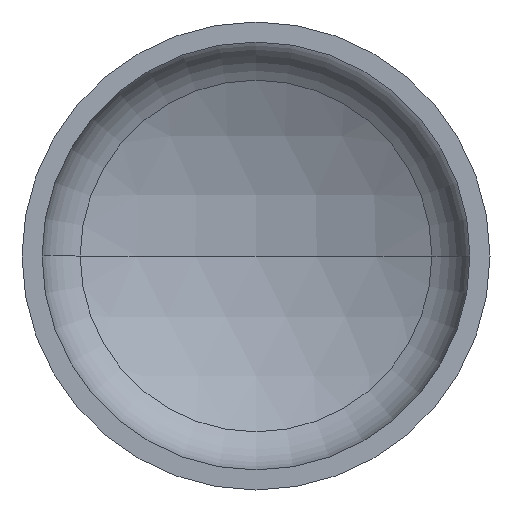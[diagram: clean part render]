
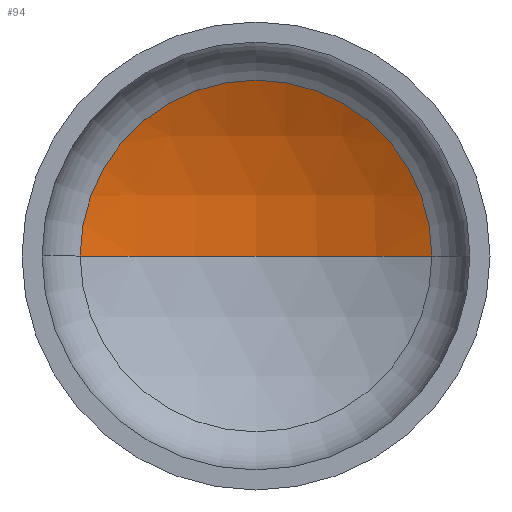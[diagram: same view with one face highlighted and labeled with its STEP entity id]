
A CAD part, front view. The second image highlights one B-rep face of the part: STEP entity #94.
In plain terms, the highlighted spherical face has radius 2240 mm.
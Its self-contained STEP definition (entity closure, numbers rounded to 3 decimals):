
#12 = VERTEX_POINT ( 'NONE', #298 ) ;
#14 = VERTEX_POINT ( 'NONE', #297 ) ;
#29 = EDGE_LOOP ( 'NONE', ( #134, #125, #70 ) ) ;
#36 = AXIS2_PLACEMENT_3D ( 'NONE', #199, #211, #214 ) ;
#37 = AXIS2_PLACEMENT_3D ( 'NONE', #306, #226, #220 ) ;
#39 = AXIS2_PLACEMENT_3D ( 'NONE', #164, #386, #49 ) ;
#40 = AXIS2_PLACEMENT_3D ( 'NONE', #236, #233, #235 ) ;
#49 = DIRECTION ( 'NONE',  ( -1., 0., 0. ) ) ;
#70 = ORIENTED_EDGE ( 'NONE', *, *, #75, .T. ) ;
#75 = EDGE_CURVE ( 'NONE', #354, #14, #339, .T. ) ;
#94 = ADVANCED_FACE ( 'NONE', ( #106 ), #209, .F. ) ;
#106 = FACE_OUTER_BOUND ( 'NONE', #29, .T. ) ;
#125 = ORIENTED_EDGE ( 'NONE', *, *, #129, .T. ) ;
#129 = EDGE_CURVE ( 'NONE', #12, #354, #381, .T. ) ;
#134 = ORIENTED_EDGE ( 'NONE', *, *, #167, .F. ) ;
#164 = CARTESIAN_POINT ( 'NONE',  ( 0., -1522.999, 0. ) ) ;
#167 = EDGE_CURVE ( 'NONE', #12, #14, #330, .T. ) ;
#178 = CARTESIAN_POINT ( 'NONE',  ( 1051.934, 454.635, 0. ) ) ;
#199 = CARTESIAN_POINT ( 'NONE',  ( 0., -1522.999, 0. ) ) ;
#209 = SPHERICAL_SURFACE ( 'NONE', #37, 2240. ) ;
#211 = DIRECTION ( 'NONE',  ( 0., 0., 1. ) ) ;
#214 = DIRECTION ( 'NONE',  ( 1., 0., 0. ) ) ;
#220 = DIRECTION ( 'NONE',  ( -1., 0., 0. ) ) ;
#226 = DIRECTION ( 'NONE',  ( 0., 0., -1. ) ) ;
#233 = DIRECTION ( 'NONE',  ( 0., -1., 0. ) ) ;
#235 = DIRECTION ( 'NONE',  ( 1., 0., 0. ) ) ;
#236 = CARTESIAN_POINT ( 'NONE',  ( 0., 454.635, 0. ) ) ;
#297 = CARTESIAN_POINT ( 'NONE',  ( -1051.934, 454.635, 0. ) ) ;
#298 = CARTESIAN_POINT ( 'NONE',  ( 0., 717.001, 0. ) ) ;
#306 = CARTESIAN_POINT ( 'NONE',  ( 0., -1522.999, 0. ) ) ;
#330 = CIRCLE ( 'NONE', #36, 2240. ) ;
#339 = CIRCLE ( 'NONE', #40, 1051.934 ) ;
#354 = VERTEX_POINT ( 'NONE', #178 ) ;
#381 = CIRCLE ( 'NONE', #39, 2240. ) ;
#386 = DIRECTION ( 'NONE',  ( 0., 0., -1. ) ) ;
